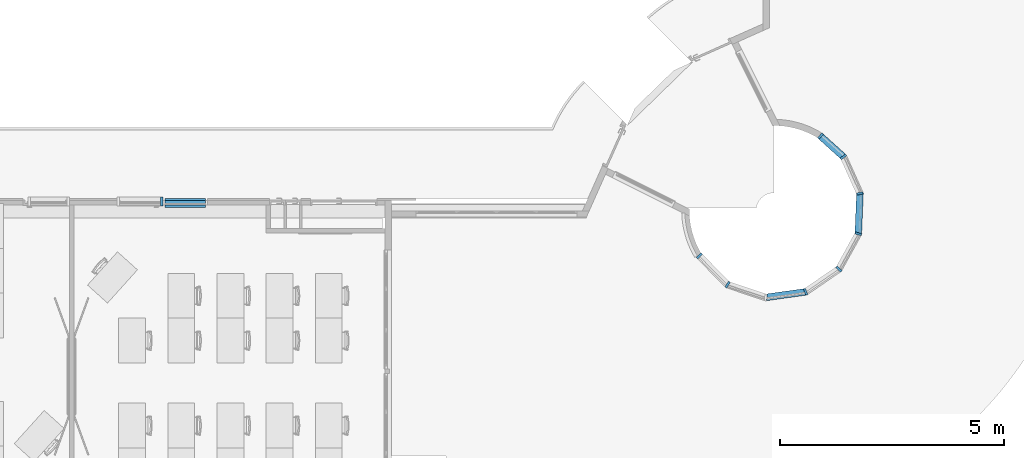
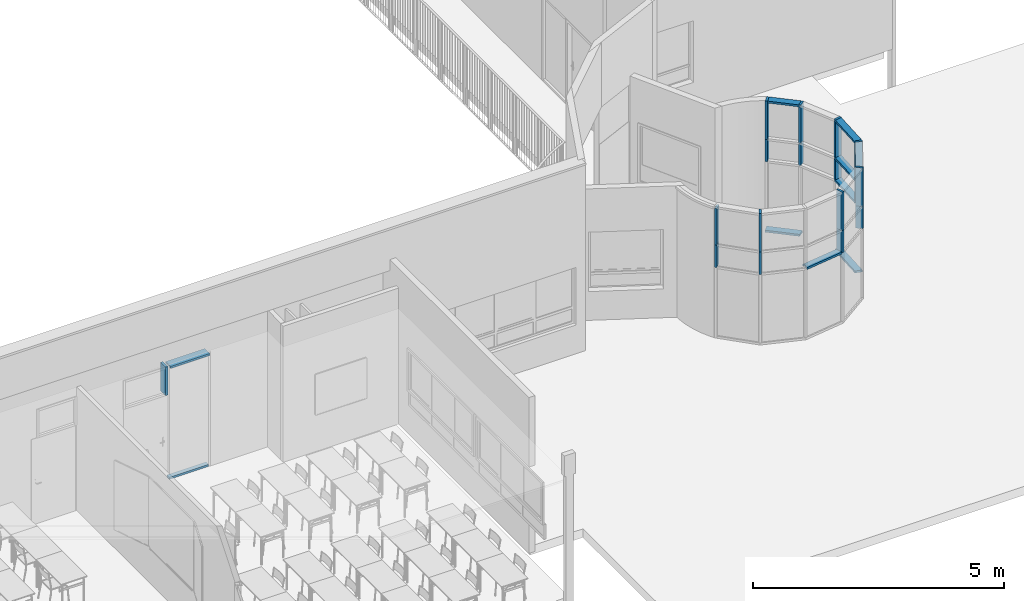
# One storey, part 13 of 44: 27 members, 4 elements without a shape of their own.
"""IFC2X3 building model written with IfcOpenShell, lengths in centimetres."""

import ifcopenshell
import ifcopenshell.guid

model = None  # the IFC model being written
_history = None  # IfcOwnerHistory: only IFC2X3 demands one
_inside = {}  # id of a spatial element -> (the spatial element, [elements in it])
_under = {}  # id of a project, library or spatial element -> (it, [spatial elements below it])
_declared = {}  # id of a project -> (the project, [libraries it declares])
_typed = {}  # id of a type object -> (the type object, [elements of that type])
_made_of = {}  # id of a material, layer set ... -> (it, [elements and type objects made of it])


def new_model(schema):
    """Start an empty IFC model of exactly this schema.

    Asked for "IFC4X3", IfcOpenShell would pick the latest addendum, in which some entities
    have other attributes; the version numbers below select the first issue.
    IFC2X3 requires an IfcOwnerHistory on every rooted entity: one is made here for all.
    """
    global model, _history
    if schema == "IFC4X3":
        model = ifcopenshell.file(schema_version=(4, 3, 0, 0))
    else:
        model = ifcopenshell.file(schema=schema)
    _inside.clear()
    _under.clear()
    _declared.clear()
    _typed.clear()
    _made_of.clear()
    _history = None
    if model.schema == "IFC2X3":
        org = make("IfcOrganization", Name="unknown")
        user = make(
            "IfcPersonAndOrganization",
            ThePerson=make("IfcPerson", FamilyName="unknown"),
            TheOrganization=org,
        )
        app = make(
            "IfcApplication",
            ApplicationDeveloper=org,
            Version="unknown",
            ApplicationFullName="unknown",
            ApplicationIdentifier="unknown",
        )
        _history = make(
            "IfcOwnerHistory",
            OwningUser=user,
            OwningApplication=app,
            ChangeAction="ADDED",
            CreationDate=0,
        )
    return model


def make(cls, **values):
    """One entity of the class cls with the attributes given. An attribute that is None is left unset."""
    return model.create_entity(
        cls, **{name: value for name, value in values.items() if value is not None}
    )


def entity(cls, *values):
    """Any entity or typed value of the class cls, its attributes in the order of the schema. None: left unset."""
    e = model.create_entity(cls)
    for i, value in enumerate(values):
        if value is not None:
            e[i] = value
    return e


def rooted(cls, **values):
    """An entity with a GlobalId (a new one), such as an element, a storey or a relation."""
    return make(cls, GlobalId=ifcopenshell.guid.new(), OwnerHistory=_history, **values)


def si_unit(unit_type, name, prefix=None):
    """IfcSIUnit, for example si_unit("LENGTHUNIT", "METRE", prefix="MILLI")."""
    return make("IfcSIUnit", UnitType=unit_type, Prefix=prefix, Name=name)


def converted_unit(unit_type, name, factor, base, dimensions=None, offset=None):
    """IfcConversionBasedUnit, such as the inch: factor (a typed value) times the base unit."""
    return make(
        "IfcConversionBasedUnit"
        if offset is None
        else "IfcConversionBasedUnitWithOffset",
        ConversionOffset=offset,
        Dimensions=None
        if dimensions is None
        else entity("IfcDimensionalExponents", *dimensions),
        UnitType=unit_type,
        Name=name,
        ConversionFactor=make(
            "IfcMeasureWithUnit", ValueComponent=factor, UnitComponent=base
        ),
    )


def derived_unit(unit_type, elements):
    """IfcDerivedUnit: a product of units, each with its exponent."""
    return make(
        "IfcDerivedUnit",
        Elements=[
            make("IfcDerivedUnitElement", Unit=unit, Exponent=power)
            for unit, power in elements
        ],
        UnitType=unit_type,
    )


def assignment(units):
    """IfcUnitAssignment: the units of a project."""
    return None if units is None else make("IfcUnitAssignment", Units=units)


def point(xyz):
    """IfcCartesianPoint."""
    return None if xyz is None else make("IfcCartesianPoint", Coordinates=xyz)


def direction(xyz):
    """IfcDirection."""
    return None if xyz is None else make("IfcDirection", DirectionRatios=xyz)


def frame(location, z_axis=None, x_axis=None):
    """IfcAxis2Placement3D, a coordinate frame: its origin and axes. An axis left out is left unset."""
    return make(
        "IfcAxis2Placement3D",
        Location=point(location),
        Axis=direction(z_axis),
        RefDirection=direction(x_axis),
    )


def frame_2d(location, x_axis=None):
    """IfcAxis2Placement2D, a coordinate frame in the plane: its origin and x axis."""
    return make(
        "IfcAxis2Placement2D", Location=point(location), RefDirection=direction(x_axis)
    )


def origin():
    """The frame at (0, 0, 0) with its axes left unset."""
    return frame((0.0, 0.0, 0.0))


def origin_2d_with_axis():
    """The frame at (0, 0) in the plane with the x axis (1, 0) written out."""
    return frame_2d((0.0, 0.0), x_axis=(1.0, 0.0))


def place(relative_to, where):
    """IfcLocalPlacement: puts the frame where relative to a parent placement (None: the world)."""
    return make(
        "IfcLocalPlacement", PlacementRelTo=relative_to, RelativePlacement=where
    )


def context(
    kind, dimensions, precision=None, world=None, true_north=None, identifier=None
):
    """IfcGeometricRepresentationContext, for example the 3D "Model" context."""
    return make(
        "IfcGeometricRepresentationContext",
        ContextIdentifier=identifier,
        ContextType=kind,
        CoordinateSpaceDimension=dimensions,
        Precision=precision,
        WorldCoordinateSystem=world,
        TrueNorth=true_north,
    )


def subcontext(parent, identifier, kind, view, scale=None):
    """IfcGeometricRepresentationSubContext, for example "Body" below "Model"."""
    return make(
        "IfcGeometricRepresentationSubContext",
        ContextIdentifier=identifier,
        ContextType=kind,
        ParentContext=parent,
        TargetScale=scale,
        TargetView=view,
    )


def project(units=None, contexts=None):
    """IfcProject with its units and contexts."""
    return rooted(
        "IfcProject",
        Name="project",
        RepresentationContexts=contexts,
        UnitsInContext=assignment(units),
    )


def spatial(cls, under=None, at=None, **own):
    """A site, building, storey or space (cls), placed at a placement, below another one or the project."""
    s = rooted(cls, ObjectPlacement=at, **own)
    if under is not None:
        _under.setdefault(under.id(), (under, []))[1].append(s)
    return s


def polyline(points):
    """IfcPolyline through the points."""
    return make("IfcPolyline", Points=[point(p) for p in points])


def profile(cls, at=None, kind="AREA", **sizes):
    """A parametric profile (cls). Its sizes go by their IFC names, for example OverallWidth=200.0."""
    return make(cls, ProfileType=kind, Position=at, **sizes)


def rectangle(**sizes):
    """IfcRectangleProfileDef."""
    return profile("IfcRectangleProfileDef", **sizes)


def extrude(swept, where, along, depth):
    """IfcExtrudedAreaSolid: the profile swept, set in the frame where, extruded along a direction by depth."""
    return make(
        "IfcExtrudedAreaSolid",
        SweptArea=swept,
        Position=where,
        ExtrudedDirection=direction(along),
        Depth=depth,
    )


def clip(a, b, op="DIFFERENCE"):
    """IfcBooleanClippingResult: the solid a cut by the half space b."""
    return make(
        "IfcBooleanClippingResult", Operator=op, FirstOperand=a, SecondOperand=b
    )


def halfspace(plane, agree):
    """IfcHalfSpaceSolid: all space on one side of the plane z = 0 of the frame plane."""
    return make(
        "IfcHalfSpaceSolid",
        BaseSurface=make("IfcPlane", Position=plane),
        AgreementFlag=agree,
    )


def bounded_halfspace(plane, agree, where, boundary):
    """IfcPolygonalBoundedHalfSpace: a half space limited to a polygon's prism."""
    return make(
        "IfcPolygonalBoundedHalfSpace",
        BaseSurface=make("IfcPlane", Position=plane),
        AgreementFlag=agree,
        Position=where,
        PolygonalBoundary=boundary,
    )


def shape(context_of_items, identifier, shape_type, items):
    """IfcShapeRepresentation: the items that make up one representation, for example the "Body"."""
    return make(
        "IfcShapeRepresentation",
        ContextOfItems=context_of_items,
        RepresentationIdentifier=identifier,
        RepresentationType=shape_type,
        Items=items,
    )


def material(Name=None, Category=None):
    """IfcMaterial."""
    return make("IfcMaterial", Name=Name, Category=Category)


def made_of(thing, what):
    """Note that an element or type object is made of a material, layer set ...; save() writes the relation."""
    if what is not None:
        _made_of.setdefault(what.id(), (what, []))[1].append(thing)
    return thing


def type_object(cls, material=None, **own):
    """A type object (cls), such as IfcWallType, which elements share."""
    return made_of(rooted(cls, **own), material)


def element(
    cls,
    number,
    at=None,
    inside=None,
    cuts=None,
    type_object=None,
    material=None,
    context=None,
    identifier="Body",
    shape_type=None,
    held_by="IfcProductDefinitionShape",
    body=None,
    shapes=None,
    **own,
):
    """One element of the class cls, such as IfcWall. Its Tag is "e" and its number.

    at: its placement. inside: the storey or other place that contains it. cuts: it is an
    opening in that element (IfcRelVoidsElement). A single representation is given by context,
    identifier, shape_type and body (its items); several are given by shapes. held_by: the class
    of the entity that holds the representations. save() writes the other relations.
    """
    e = rooted(cls, Tag="e%d" % number, ObjectPlacement=at, **own)
    if body is not None:
        shapes = [shape(context, identifier, shape_type, body)]
    if shapes is not None:
        e.Representation = make(held_by, Representations=shapes)
    if inside is not None:
        _inside.setdefault(inside.id(), (inside, []))[1].append(e)
    if cuts is not None:
        rooted(
            "IfcRelVoidsElement", RelatingBuildingElement=cuts, RelatedOpeningElement=e
        )
    if type_object is not None:
        _typed.setdefault(type_object.id(), (type_object, []))[1].append(e)
    return made_of(e, material)


def aggregate(whole, parts):
    """IfcRelAggregates: a whole, such as a stair, and the parts it consists of."""
    return rooted("IfcRelAggregates", RelatingObject=whole, RelatedObjects=parts)


def save(model, path):
    """Write the relations noted so far, then the file.

    IfcRelAggregates (storeys below a building ...), IfcRelContainedInSpatialStructure (elements
    in a storey), IfcRelDefinesByType, IfcRelAssociatesMaterial and IfcRelDeclares: one each for
    every whole, place, type object, material and project.
    """
    for whole, parts in _under.values():
        aggregate(whole, parts)
    for where, things in _inside.values():
        rooted(
            "IfcRelContainedInSpatialStructure",
            RelatedElements=things,
            RelatingStructure=where,
        )
    for kind, things in _typed.values():
        rooted("IfcRelDefinesByType", RelatedObjects=things, RelatingType=kind)
    for what, things in _made_of.values():
        rooted("IfcRelAssociatesMaterial", RelatedObjects=things, RelatingMaterial=what)
    for by, libraries in _declared.values():
        rooted("IfcRelDeclares", RelatingContext=by, RelatedDefinitions=libraries)
    model.write(path)


model = new_model("IFC2X3")

# Units and contexts
model_context = context("Model", 3, precision=0.001, world=origin(), true_north=direction((6.12303176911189e-17, 1.0)))
body_context = subcontext(model_context, "Body", "Model", "MODEL_VIEW")
ifc_project = project(units=[si_unit("LENGTHUNIT", "METRE", prefix="CENTI"), si_unit("AREAUNIT", "SQUARE_METRE"), si_unit("VOLUMEUNIT", "CUBIC_METRE"), converted_unit("PLANEANGLEUNIT", "DEGREE", entity("IfcRatioMeasure", 0.0174532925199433), si_unit("PLANEANGLEUNIT", "RADIAN"), dimensions=[0, 0, 0, 0, 0, 0, 0]), si_unit("MASSUNIT", "GRAM", prefix="KILO"), si_unit("TIMEUNIT", "SECOND"), si_unit("FREQUENCYUNIT", "HERTZ"), si_unit("THERMODYNAMICTEMPERATUREUNIT", "DEGREE_CELSIUS"), derived_unit("THERMALTRANSMITTANCEUNIT", [(si_unit("MASSUNIT", "GRAM", prefix="KILO"), 1), (si_unit("THERMODYNAMICTEMPERATUREUNIT", "KELVIN"), -1), (si_unit("TIMEUNIT", "SECOND"), -3)]), derived_unit("VOLUMETRICFLOWRATEUNIT", [(si_unit("LENGTHUNIT", "METRE"), 3), (si_unit("TIMEUNIT", "SECOND"), -1)]), si_unit("ELECTRICCURRENTUNIT", "AMPERE"), si_unit("ELECTRICVOLTAGEUNIT", "VOLT"), si_unit("POWERUNIT", "WATT"), si_unit("FORCEUNIT", "NEWTON", prefix="KILO"), si_unit("ILLUMINANCEUNIT", "LUX"), si_unit("LUMINOUSFLUXUNIT", "LUMEN"), si_unit("LUMINOUSINTENSITYUNIT", "CANDELA"), derived_unit("USERDEFINED", [(si_unit("MASSUNIT", "GRAM", prefix="KILO"), -1), (si_unit("LENGTHUNIT", "METRE"), -2), (si_unit("TIMEUNIT", "SECOND"), 3), (si_unit("LUMINOUSFLUXUNIT", "LUMEN"), 1)]), derived_unit("LINEARVELOCITYUNIT", [(si_unit("LENGTHUNIT", "METRE"), 1), (si_unit("TIMEUNIT", "SECOND"), -1)]), si_unit("PRESSUREUNIT", "PASCAL"), derived_unit("USERDEFINED", [(si_unit("LENGTHUNIT", "METRE"), -2), (si_unit("MASSUNIT", "GRAM", prefix="KILO"), 1), (si_unit("TIMEUNIT", "SECOND"), -2)])], contexts=[model_context])

# Site, building, storey
site_placement = place(None, frame((8.62739174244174, -249.285249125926, 0.0)))
site = spatial("IfcSite", under=ifc_project, at=site_placement, Name="Default", CompositionType="ELEMENT")
building_placement = place(site_placement, origin())
building = spatial("IfcBuilding", under=site, at=building_placement, CompositionType="ELEMENT")
storey_placement = place(building_placement, frame((0.0, 0.0, 343.0)))
storey = spatial("IfcBuildingStorey", under=building, at=storey_placement, Name="R+1", CompositionType="ELEMENT", Elevation=343.0)

# Curtain wall, members
curtain_wall_type_1 = type_object("IfcCurtainWallType", Name="Mur-rideau:1 m x 1 m - Meneaux", PredefinedType="NOTDEFINED")
curtain_wall_1_placement = place(storey_placement, frame((0.0, 0.0, -343.0)))
curtain_wall_1 = element("IfcCurtainWall", 1, at=curtain_wall_1_placement, inside=storey, type_object=curtain_wall_type_1, Name="Mur-rideau:1 m x 1 m - Meneaux", ObjectType="Mur-rideau:1 m x 1 m - Meneaux")
ifc_material = material(Name="Plastique, blanc opaque")
member_1_placement = place(curtain_wall_1_placement, frame((0.0, 0.0, 343.0)))
member_1 = element("IfcMember", 2, at=member_1_placement, material=ifc_material, Name="Mur-rideau:1 m x 1 m - Meneaux:661", ObjectType="Mur-rideau:1 m x 1 m - Meneaux:661", context=body_context, shape_type="Clipping", body=[
    clip(clip(extrude(rectangle(XDim=4.99999999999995, YDim=14.9999999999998, at=frame_2d((0.0, -4.04121180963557e-14), x_axis=(1.0, 0.0))), frame((3149.88515648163, 917.379609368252, 317.5), z_axis=(0.742869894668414, -0.669435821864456, 0.0), x_axis=(0.0, 0.0, -1.0)), (0.0, 0.0, 1.0), 65.8973889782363), bounded_halfspace(frame((3191.87727141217, 870.226880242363, 226.0), z_axis=(0.608123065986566, -0.793842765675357, 0.0), x_axis=(0.793842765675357, 0.608123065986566, 0.0)), False, frame((3149.88515648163, 917.379609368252, 317.5), z_axis=(0.742869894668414, -0.669435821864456, 0.0), x_axis=(0.0, 0.0, -1.0)), polyline([(-2.49999999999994, 7.50000000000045), (-2.49999999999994, -6.91731694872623), (2.5, -6.91731694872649), (2.5, 7.4999999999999), (-2.49999999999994, 7.50000000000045)]))), bounded_halfspace(frame((3194.9178867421, 866.257666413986, 226.0), z_axis=(0.793842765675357, 0.608123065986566, 0.0), x_axis=(0.608123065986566, -0.793842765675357, 0.0)), False, frame((3149.88515648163, 917.379609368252, 317.5), z_axis=(0.742869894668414, -0.669435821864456, 0.0), x_axis=(0.0, 0.0, -1.0)), polyline([(-2.49999999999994, -6.9173169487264), (-2.49999999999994, -7.49999999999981), (2.5, -7.4999999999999), (2.5, -6.91731694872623), (-2.49999999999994, -6.9173169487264)]))),
])
member_2_placement = place(curtain_wall_1_placement, frame((0.0, 0.0, 343.0)))
member_2 = element("IfcMember", 3, at=member_2_placement, material=ifc_material, Name="Mur-rideau:1 m x 1 m - Meneaux:661", ObjectType="Mur-rideau:1 m x 1 m - Meneaux:661", context=body_context, shape_type="SweptSolid", body=[
    extrude(rectangle(XDim=15.0, YDim=4.99999999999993, at=frame_2d((-1.92290627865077e-13, -1.13020703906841e-13), x_axis=(1.0, 0.0))), frame((2877.29528314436, 651.233873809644, 315.0), z_axis=(0.0, 0.0, -1.0), x_axis=(0.712900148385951, 0.701265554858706, 0.0)), (0.0, 0.0, 1.0), 89.0),
])
member_3_placement = place(curtain_wall_1_placement, frame((0.0, 0.0, 343.0)))
member_3 = element("IfcMember", 4, at=member_3_placement, material=ifc_material, Name="Mur-rideau:1 m x 1 m - Meneaux:661", ObjectType="Mur-rideau:1 m x 1 m - Meneaux:661", context=body_context, shape_type="Clipping", body=[
    clip(clip(clip(clip(extrude(rectangle(XDim=4.99999999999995, YDim=15.0000000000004, at=origin_2d_with_axis()), frame((3236.18406979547, 789.901336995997, 317.5), z_axis=(-0.0412690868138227, -0.999148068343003, 0.0), x_axis=(0.0, 0.0, -1.0)), (0.0, 0.0, 1.0), 88.4011679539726), bounded_halfspace(frame((3244.0546314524, 789.664461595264, 226.0), z_axis=(-0.189229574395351, 0.981932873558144, 0.0), x_axis=(0.981932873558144, 0.189229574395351, 0.0)), False, frame((3236.18406979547, 789.901336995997, 317.5), z_axis=(-0.0412690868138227, -0.999148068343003, 0.0), x_axis=(0.0, 0.0, -1.0)), polyline([(-2.49999999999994, 7.50000000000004), (2.5, 7.50000000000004), (2.5, -6.72567292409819), (-2.49999999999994, -6.72567292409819), (-2.49999999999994, 7.50000000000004)]))), bounded_halfspace(frame((3229.32563834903, 786.826017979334, 226.0), z_axis=(0.981932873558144, 0.189229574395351, 0.0), x_axis=(0.189229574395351, -0.981932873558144, 0.0)), False, frame((3236.18406979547, 789.901336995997, 317.5), z_axis=(-0.0412690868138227, -0.999148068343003, 0.0), x_axis=(0.0, 0.0, -1.0)), polyline([(2.5, -6.72567292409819), (2.5, -7.5000000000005), (-2.49999999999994, -7.5000000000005), (-2.49999999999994, -6.72567292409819), (2.5, -6.72567292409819)]))), bounded_halfspace(frame((3225.95437954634, 705.205924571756, 226.0), z_axis=(-0.269562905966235, -0.962982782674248, 0.0), x_axis=(0.962982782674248, -0.269562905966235, 0.0)), False, frame((3236.18406979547, 789.901336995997, 317.5), z_axis=(-0.0412690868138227, -0.999148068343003, 0.0), x_axis=(0.0, 0.0, -1.0)), polyline([(-2.49999999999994, 7.49999999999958), (-2.49999999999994, -6.72567292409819), (2.5, -6.72567292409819), (2.5, 7.50000000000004), (-2.49999999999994, 7.49999999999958)]))), bounded_halfspace(frame((3224.60656501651, 700.391010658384, 226.0), z_axis=(0.962982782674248, -0.269562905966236, 0.0), x_axis=(0.269562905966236, 0.962982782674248, 0.0)), False, frame((3236.18406979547, 789.901336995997, 317.5), z_axis=(-0.0412690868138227, -0.999148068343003, 0.0), x_axis=(0.0, 0.0, -1.0)), polyline([(-2.49999999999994, -6.72567292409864), (-2.49999999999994, -7.5000000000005), (2.5, -7.50000000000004), (2.5, -6.72567292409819), (-2.49999999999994, -6.72567292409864)]))),
])
member_4_placement = place(curtain_wall_1_placement, frame((0.0, 0.0, 343.0)))
member_4 = element("IfcMember", 5, at=member_4_placement, material=ifc_material, Name="Mur-rideau:1 m x 1 m - Meneaux:661", ObjectType="Mur-rideau:1 m x 1 m - Meneaux:661", context=body_context, shape_type="Clipping", body=[
    clip(clip(extrude(rectangle(XDim=5.0, YDim=15.0000000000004, at=frame_2d((-2.70894418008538e-14, 0.0), x_axis=(1.0, 0.0))), frame((3232.42982990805, 699.009053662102, 2.49999999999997), z_axis=(0.0412690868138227, 0.999148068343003, 0.0), x_axis=(0.0, 0.0, -1.0)), (0.0, 0.0, 1.0), 93.5383987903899), halfspace(frame((3232.50284315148, 700.776745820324, -30.48), z_axis=(-0.269562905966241, -0.962982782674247, 0.0), x_axis=(0.962982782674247, -0.269562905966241, 0.0)), False)), halfspace(frame((3236.21706096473, 790.700071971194, -30.48), z_axis=(-0.189229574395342, 0.981932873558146, 0.0), x_axis=(0.981932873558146, 0.189229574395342, 0.0)), False)),
])
member_5_placement = place(curtain_wall_1_placement, frame((0.0, 0.0, 343.0)))
member_5 = element("IfcMember", 6, at=member_5_placement, material=ifc_material, Name="Mur-rideau:1 m x 1 m - Meneaux:661", ObjectType="Mur-rideau:1 m x 1 m - Meneaux:661", context=body_context, shape_type="Clipping", body=[
    clip(extrude(rectangle(XDim=5.0, YDim=14.9999999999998, at=frame_2d((-2.70894418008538e-14, -1.20348175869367e-13), x_axis=(1.0, 0.0))), frame((3200.52528042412, 871.745356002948, 2.49999999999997), z_axis=(-0.742869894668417, 0.669435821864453, 0.0), x_axis=(0.0, 0.0, -1.0)), (0.0, 0.0, 1.0), 73.168227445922), halfspace(frame((3199.3513998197, 872.803196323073, -30.48), z_axis=(0.588895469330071, -0.808209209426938, 0.0), x_axis=(0.808209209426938, 0.588895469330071, 0.0)), False)),
])
member_6_placement = place(curtain_wall_1_placement, frame((0.0, 0.0, 343.0)))
member_6 = element("IfcMember", 7, at=member_6_placement, material=ifc_material, Name="Mur-rideau:1 m x 1 m - Meneaux:661", ObjectType="Mur-rideau:1 m x 1 m - Meneaux:661", context=body_context, shape_type="SweptSolid", body=[
    extrude(rectangle(XDim=14.9999999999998, YDim=4.99999999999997, at=frame_2d((4.04121180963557e-14, 3.64153152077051e-14), x_axis=(1.0, 0.0))), frame((3148.02798174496, 919.053198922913, 226.0), z_axis=(0.0, 0.0, 1.0), x_axis=(0.669435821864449, 0.74286989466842, 0.0)), (0.0, 0.0, 1.0), 93.9999999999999),
])
member_7_placement = place(curtain_wall_1_placement, frame((0.0, 0.0, 343.0)))
member_7 = element("IfcMember", 8, at=member_7_placement, material=ifc_material, Name="Mur-rideau:1 m x 1 m - Meneaux:661", ObjectType="Mur-rideau:1 m x 1 m - Meneaux:661", context=body_context, shape_type="SweptSolid", body=[
    extrude(rectangle(XDim=15.0, YDim=4.99999999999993, at=frame_2d((-1.92290627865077e-13, -1.13020703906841e-13), x_axis=(1.0, 0.0))), frame((2877.29528314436, 651.233873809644, 226.0), z_axis=(0.0, 0.0, -1.0), x_axis=(0.712900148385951, 0.701265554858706, 0.0)), (0.0, 0.0, 1.0), 54.0),
])
member_8_placement = place(curtain_wall_1_placement, frame((0.0, 0.0, 343.0)))
member_8 = element("IfcMember", 9, at=member_8_placement, material=ifc_material, Name="Mur-rideau:1 m x 1 m - Meneaux:661", ObjectType="Mur-rideau:1 m x 1 m - Meneaux:661", context=body_context, shape_type="Clipping", body=[
    clip(clip(clip(clip(clip(clip(clip(clip(extrude(rectangle(XDim=4.99999999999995, YDim=15.0000000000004, at=frame_2d((0.0, 4.32986979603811e-13), x_axis=(1.0, 0.0))), frame((3236.18406979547, 789.901336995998, 226.0), z_axis=(-0.0412690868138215, -0.999148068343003, 0.0), x_axis=(0.0, 0.0, -1.0)), (0.0, 0.0, 1.0), 88.4011679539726), bounded_halfspace(frame((3244.0546314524, 789.664461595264, 226.0), z_axis=(-0.18922957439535, 0.981932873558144, 0.0), x_axis=(0.981932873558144, 0.18922957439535, 0.0)), False, frame((3236.18406979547, 789.901336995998, 226.0), z_axis=(-0.0412690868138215, -0.999148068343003, 0.0), x_axis=(0.0, 0.0, -1.0)), polyline([(-2.49999999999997, 7.5000000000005), (0.0, 7.5000000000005), (0.0, -6.72567292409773), (-2.49999999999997, -6.72567292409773), (-2.49999999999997, 7.5000000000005)]))), bounded_halfspace(frame((3244.0546314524, 789.664461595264, 172.0), z_axis=(-0.18922957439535, 0.981932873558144, 0.0), x_axis=(0.981932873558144, 0.18922957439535, 0.0)), False, frame((3236.18406979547, 789.901336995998, 226.0), z_axis=(-0.0412690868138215, -0.999148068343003, 0.0), x_axis=(0.0, 0.0, -1.0)), polyline([(0.0, 7.5000000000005), (2.49999999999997, 7.5000000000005), (2.49999999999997, -6.72567292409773), (0.0, -6.72567292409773), (0.0, 7.5000000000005)]))), bounded_halfspace(frame((3229.32563834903, 786.826017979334, 226.0), z_axis=(0.981932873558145, 0.18922957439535, 0.0), x_axis=(0.18922957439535, -0.981932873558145, 0.0)), False, frame((3236.18406979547, 789.901336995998, 226.0), z_axis=(-0.0412690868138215, -0.999148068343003, 0.0), x_axis=(0.0, 0.0, -1.0)), polyline([(0.0, -7.50000000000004), (-2.49999999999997, -7.50000000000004), (-2.49999999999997, -6.72567292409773), (0.0, -6.72567292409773), (0.0, -7.50000000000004)]))), bounded_halfspace(frame((3229.32563834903, 786.826017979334, 172.0), z_axis=(0.981932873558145, 0.18922957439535, 0.0), x_axis=(0.18922957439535, -0.981932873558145, 0.0)), False, frame((3236.18406979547, 789.901336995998, 226.0), z_axis=(-0.0412690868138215, -0.999148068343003, 0.0), x_axis=(0.0, 0.0, -1.0)), polyline([(2.49999999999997, -6.72567292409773), (2.49999999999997, -7.50000000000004), (0.0, -7.50000000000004), (0.0, -6.72567292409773), (2.49999999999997, -6.72567292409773)]))), bounded_halfspace(frame((3225.95437954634, 705.205924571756, 226.0), z_axis=(-0.269562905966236, -0.962982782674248, 0.0), x_axis=(0.962982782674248, -0.269562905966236, 0.0)), False, frame((3236.18406979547, 789.901336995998, 226.0), z_axis=(-0.0412690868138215, -0.999148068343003, 0.0), x_axis=(0.0, 0.0, -1.0)), polyline([(-2.49999999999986, 7.50000000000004), (-2.49999999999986, -6.72567292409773), (0.0, -6.72567292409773), (0.0, 7.5000000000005), (-2.49999999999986, 7.50000000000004)]))), bounded_halfspace(frame((3224.60656501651, 700.391010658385, 226.0), z_axis=(0.962982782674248, -0.269562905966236, 0.0), x_axis=(0.269562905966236, 0.962982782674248, 0.0)), False, frame((3236.18406979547, 789.901336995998, 226.0), z_axis=(-0.0412690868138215, -0.999148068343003, 0.0), x_axis=(0.0, 0.0, -1.0)), polyline([(-2.49999999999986, -6.72567292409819), (-2.49999999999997, -7.50000000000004), (0.0, -7.50000000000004), (0.0, -6.72567292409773), (-2.49999999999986, -6.72567292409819)]))), bounded_halfspace(frame((3225.95437954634, 705.205924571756, 172.0), z_axis=(-0.269562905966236, -0.962982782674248, 0.0), x_axis=(0.962982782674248, -0.269562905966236, 0.0)), False, frame((3236.18406979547, 789.901336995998, 226.0), z_axis=(-0.0412690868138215, -0.999148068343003, 0.0), x_axis=(0.0, 0.0, -1.0)), polyline([(2.50000000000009, -6.72567292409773), (2.50000000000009, 7.5000000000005), (0.0, 7.50000000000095), (0.0, -6.72567292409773), (2.50000000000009, -6.72567292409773)]))), bounded_halfspace(frame((3224.60656501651, 700.391010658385, 172.0), z_axis=(0.962982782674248, -0.269562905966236, 0.0), x_axis=(0.269562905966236, 0.962982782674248, 0.0)), False, frame((3236.18406979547, 789.901336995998, 226.0), z_axis=(-0.0412690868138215, -0.999148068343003, 0.0), x_axis=(0.0, 0.0, -1.0)), polyline([(0.0, -7.50000000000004), (2.50000000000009, -7.49999999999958), (2.50000000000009, -6.72567292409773), (0.0, -6.72567292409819), (0.0, -7.50000000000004)]))),
])
member_9_placement = place(curtain_wall_1_placement, frame((0.0, 0.0, 343.0)))
member_9 = element("IfcMember", 10, at=member_9_placement, material=ifc_material, Name="Mur-rideau:1 m x 1 m - Meneaux:661", ObjectType="Mur-rideau:1 m x 1 m - Meneaux:661", context=body_context, shape_type="SweptSolid", body=[
    extrude(rectangle(XDim=4.99999999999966, YDim=15.0, at=frame_2d((-3.67927910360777e-13, -2.28261853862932e-13), x_axis=(1.0, 0.0))), frame((2940.40918308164, 587.072860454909, 226.0), z_axis=(0.0, 0.0, 1.0), x_axis=(0.849684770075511, -0.527290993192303, 0.0)), (0.0, 0.0, 1.0), 93.9999999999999),
])
member_10_placement = place(curtain_wall_1_placement, frame((0.0, 0.0, 343.0)))
member_10 = element("IfcMember", 11, at=member_10_placement, material=ifc_material, Name="Mur-rideau:1 m x 1 m - Meneaux:661", ObjectType="Mur-rideau:1 m x 1 m - Meneaux:661", context=body_context, shape_type="SweptSolid", body=[
    extrude(rectangle(XDim=5.00000000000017, YDim=15.0, at=frame_2d((4.03677091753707e-13, -1.57207580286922e-13), x_axis=(1.0, 0.0))), frame((3114.8584646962, 570.961807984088, 226.0), z_axis=(0.0, 0.0, 1.0), x_axis=(0.931884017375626, 0.362756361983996, 0.0)), (0.0, 0.0, 1.0), 94.0),
])
member_11_placement = place(curtain_wall_1_placement, frame((0.0, 0.0, 343.0)))
member_11 = element("IfcMember", 12, at=member_11_placement, material=ifc_material, Name="Mur-rideau:1 m x 1 m - Meneaux:661", ObjectType="Mur-rideau:1 m x 1 m - Meneaux:661", context=body_context, shape_type="SweptSolid", body=[
    extrude(rectangle(XDim=4.99999999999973, YDim=14.9999999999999, at=origin_2d_with_axis()), frame((3188.99188789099, 621.993519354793, 226.0), z_axis=(0.0, 0.0, 1.0), x_axis=(0.671518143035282, 0.740988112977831, 0.0)), (0.0, 0.0, 1.0), 94.0),
])
member_12_placement = place(curtain_wall_1_placement, frame((0.0, 0.0, 343.0)))
member_12 = element("IfcMember", 13, at=member_12_placement, material=ifc_material, Name="Mur-rideau:1 m x 1 m - Meneaux:661", ObjectType="Mur-rideau:1 m x 1 m - Meneaux:661", context=body_context, shape_type="SweptSolid", body=[
    extrude(rectangle(XDim=5.00000000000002, YDim=15.0, at=origin_2d_with_axis()), frame((3232.50284315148, 700.776745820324, 226.0), z_axis=(0.0, 0.0, 1.0), x_axis=(0.269562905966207, 0.962982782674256, 0.0)), (0.0, 0.0, 1.0), 93.9999999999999),
])
member_13_placement = place(curtain_wall_1_placement, frame((0.0, 0.0, 343.0)))
member_13 = element("IfcMember", 14, at=member_13_placement, material=ifc_material, Name="Mur-rideau:1 m x 1 m - Meneaux:661", ObjectType="Mur-rideau:1 m x 1 m - Meneaux:661", context=body_context, shape_type="SweptSolid", body=[
    extrude(rectangle(XDim=4.99999999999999, YDim=14.9999999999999, at=origin_2d_with_axis()), frame((3236.21706096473, 790.700071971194, 226.0), z_axis=(0.0, 0.0, 1.0), x_axis=(-0.189229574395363, 0.981932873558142, 0.0)), (0.0, 0.0, 1.0), 94.0),
])
member_14_placement = place(curtain_wall_1_placement, frame((0.0, 0.0, 343.0)))
member_14 = element("IfcMember", 15, at=member_14_placement, material=ifc_material, Name="Mur-rideau:1 m x 1 m - Meneaux:661", ObjectType="Mur-rideau:1 m x 1 m - Meneaux:661", context=body_context, shape_type="SweptSolid", body=[
    extrude(rectangle(XDim=14.9999999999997, YDim=5.00000000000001, at=origin_2d_with_axis()), frame((3199.3513998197, 872.803196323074, 226.0), z_axis=(0.0, 0.0, 1.0), x_axis=(0.793842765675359, 0.608123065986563, 0.0)), (0.0, 0.0, 1.0), 94.0),
])
member_15_placement = place(curtain_wall_1_placement, frame((0.0, 0.0, 343.0)))
member_15 = element("IfcMember", 16, at=member_15_placement, material=ifc_material, Name="Mur-rideau:1 m x 1 m - Meneaux:661", ObjectType="Mur-rideau:1 m x 1 m - Meneaux:661", context=body_context, shape_type="SweptSolid", body=[
    extrude(rectangle(XDim=14.9999999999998, YDim=4.99999999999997, at=frame_2d((4.04121180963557e-14, 3.64153152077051e-14), x_axis=(1.0, 0.0))), frame((3148.02798174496, 919.053198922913, 172.0), z_axis=(0.0, 0.0, 1.0), x_axis=(0.669435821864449, 0.74286989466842, 0.0)), (0.0, 0.0, 1.0), 53.9999999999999),
])
member_16_placement = place(curtain_wall_1_placement, frame((0.0, 0.0, 343.0)))
member_16 = element("IfcMember", 17, at=member_16_placement, material=ifc_material, Name="Mur-rideau:1 m x 1 m - Meneaux:661", ObjectType="Mur-rideau:1 m x 1 m - Meneaux:661", context=body_context, shape_type="Clipping", body=[
    clip(clip(clip(clip(clip(clip(clip(clip(extrude(rectangle(XDim=4.99999999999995, YDim=15.0000000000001, at=frame_2d((0.0, 2.97539770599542e-14), x_axis=(1.0, 0.0))), frame((3114.06682179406, 570.850598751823, 172.0), z_axis=(-0.990276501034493, -0.139113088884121, 0.0), x_axis=(0.0, 0.0, -1.0)), (0.0, 0.0, 1.0), 88.401167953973), bounded_halfspace(frame((3115.24942736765, 563.065786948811, 172.0), z_axis=(0.931884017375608, 0.362756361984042, 0.0), x_axis=(0.362756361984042, -0.931884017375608, 0.0)), False, frame((3114.06682179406, 570.850598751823, 172.0), z_axis=(-0.990276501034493, -0.139113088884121, 0.0), x_axis=(0.0, 0.0, -1.0)), polyline([(-2.49999999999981, 7.50000000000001), (0.0, 7.50000000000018), (0.0, -6.72567292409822), (-2.50000000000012, -6.72567292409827), (-2.49999999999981, 7.50000000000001)]))), bounded_halfspace(frame((3115.24942736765, 563.065786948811, 5.0), z_axis=(0.931884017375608, 0.362756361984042, 0.0), x_axis=(0.362756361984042, -0.931884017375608, 0.0)), False, frame((3114.06682179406, 570.850598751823, 172.0), z_axis=(-0.990276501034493, -0.139113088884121, 0.0), x_axis=(0.0, 0.0, -1.0)), polyline([(0.0, 7.49999999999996), (2.50000000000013, 7.4999999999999), (2.49999999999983, -6.72567292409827), (0.0, -6.7256729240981), (0.0, 7.49999999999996)]))), bounded_halfspace(frame((3109.80808193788, 577.044047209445, 172.0), z_axis=(0.362756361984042, -0.931884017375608, 0.0), x_axis=(0.931884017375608, 0.362756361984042, 0.0)), False, frame((3114.06682179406, 570.850598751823, 172.0), z_axis=(-0.990276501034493, -0.139113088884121, 0.0), x_axis=(0.0, 0.0, -1.0)), polyline([(0.0, -7.50000000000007), (-2.50000000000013, -7.50000000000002), (-2.50000000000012, -6.72567292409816), (0.0, -6.72567292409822), (0.0, -7.50000000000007)]))), bounded_halfspace(frame((3109.80808193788, 577.044047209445, 5.0), z_axis=(0.362756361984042, -0.931884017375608, 0.0), x_axis=(0.931884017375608, 0.362756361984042, 0.0)), False, frame((3114.06682179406, 570.850598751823, 172.0), z_axis=(-0.990276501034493, -0.139113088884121, 0.0), x_axis=(0.0, 0.0, -1.0)), polyline([(2.49999999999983, -6.72567292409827), (2.49999999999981, -7.50000000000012), (0.0, -7.49999999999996), (0.0, -6.72567292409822), (2.49999999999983, -6.72567292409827)]))), bounded_halfspace(frame((3028.91270409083, 565.679942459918, 172.0), z_axis=(-0.995762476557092, 0.0919624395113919, 0.0), x_axis=(0.0919624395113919, 0.995762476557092, 0.0)), False, frame((3114.06682179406, 570.850598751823, 172.0), z_axis=(-0.990276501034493, -0.139113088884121, 0.0), x_axis=(0.0, 0.0, -1.0)), polyline([(-2.49999999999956, 7.49999999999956), (-2.49999999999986, -6.72567292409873), (0.0, -6.72567292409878), (0.0, 7.49999999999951), (-2.49999999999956, 7.49999999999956)]))), bounded_halfspace(frame((3023.93389170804, 566.139754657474, 172.0), z_axis=(-0.0919624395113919, -0.995762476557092, 0.0), x_axis=(0.995762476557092, -0.0919624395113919, 0.0)), False, frame((3114.06682179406, 570.850598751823, 172.0), z_axis=(-0.990276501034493, -0.139113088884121, 0.0), x_axis=(0.0, 0.0, -1.0)), polyline([(-2.49999999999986, -6.72567292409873), (-2.49999999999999, -7.50000000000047), (0.0, -7.50000000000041), (0.0, -6.72567292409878), (-2.49999999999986, -6.72567292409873)]))), bounded_halfspace(frame((3028.91270409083, 565.679942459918, 5.0), z_axis=(-0.995762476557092, 0.0919624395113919, 0.0), x_axis=(0.0919624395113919, 0.995762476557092, 0.0)), False, frame((3114.06682179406, 570.850598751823, 172.0), z_axis=(-0.990276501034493, -0.139113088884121, 0.0), x_axis=(0.0, 0.0, -1.0)), polyline([(2.50000000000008, -6.72567292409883), (2.5000000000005, 7.49999999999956), (0.0, 7.49999999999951), (0.0, -6.72567292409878), (2.50000000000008, -6.72567292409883)]))), bounded_halfspace(frame((3023.93389170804, 566.139754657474, 5.0), z_axis=(-0.0919624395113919, -0.995762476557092, 0.0), x_axis=(0.995762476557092, -0.0919624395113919, 0.0)), False, frame((3114.06682179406, 570.850598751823, 172.0), z_axis=(-0.990276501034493, -0.139113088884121, 0.0), x_axis=(0.0, 0.0, -1.0)), polyline([(0.0, -7.50000000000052), (2.50000000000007, -7.50000000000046), (2.50000000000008, -6.72567292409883), (0.0, -6.72567292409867), (0.0, -7.50000000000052)]))),
])
member_17_placement = place(curtain_wall_1_placement, frame((0.0, 0.0, 343.0)))
member_17 = element("IfcMember", 18, at=member_17_placement, material=ifc_material, Name="Mur-rideau:1 m x 1 m - Meneaux:661", ObjectType="Mur-rideau:1 m x 1 m - Meneaux:661", context=body_context, shape_type="Clipping", body=[
    clip(clip(clip(clip(clip(clip(clip(clip(extrude(rectangle(XDim=4.99999999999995, YDim=15.0000000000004, at=origin_2d_with_axis()), frame((3236.18406979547, 789.901336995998, 172.0), z_axis=(-0.0412690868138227, -0.999148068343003, 0.0), x_axis=(0.0, 0.0, -1.0)), (0.0, 0.0, 1.0), 88.4011679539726), bounded_halfspace(frame((3244.0546314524, 789.664461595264, 172.0), z_axis=(-0.18922957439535, 0.981932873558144, 0.0), x_axis=(0.981932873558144, 0.18922957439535, 0.0)), False, frame((3236.18406979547, 789.901336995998, 172.0), z_axis=(-0.0412690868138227, -0.999148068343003, 0.0), x_axis=(0.0, 0.0, -1.0)), polyline([(-2.49999999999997, 7.50000000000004), (0.0, 7.50000000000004), (0.0, -6.72567292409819), (-2.49999999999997, -6.72567292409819), (-2.49999999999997, 7.50000000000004)]))), bounded_halfspace(frame((3244.0546314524, 789.664461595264, 5.0), z_axis=(-0.18922957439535, 0.981932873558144, 0.0), x_axis=(0.981932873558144, 0.18922957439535, 0.0)), False, frame((3236.18406979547, 789.901336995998, 172.0), z_axis=(-0.0412690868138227, -0.999148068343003, 0.0), x_axis=(0.0, 0.0, -1.0)), polyline([(0.0, 7.50000000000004), (2.49999999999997, 7.50000000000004), (2.49999999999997, -6.72567292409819), (0.0, -6.72567292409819), (0.0, 7.50000000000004)]))), bounded_halfspace(frame((3229.32563834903, 786.826017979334, 172.0), z_axis=(0.981932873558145, 0.18922957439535, 0.0), x_axis=(0.18922957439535, -0.981932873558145, 0.0)), False, frame((3236.18406979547, 789.901336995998, 172.0), z_axis=(-0.0412690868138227, -0.999148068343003, 0.0), x_axis=(0.0, 0.0, -1.0)), polyline([(0.0, -7.5000000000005), (-2.49999999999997, -7.5000000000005), (-2.49999999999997, -6.72567292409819), (0.0, -6.72567292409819), (0.0, -7.5000000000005)]))), bounded_halfspace(frame((3229.32563834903, 786.826017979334, 5.0), z_axis=(0.981932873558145, 0.18922957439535, 0.0), x_axis=(0.18922957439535, -0.981932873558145, 0.0)), False, frame((3236.18406979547, 789.901336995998, 172.0), z_axis=(-0.0412690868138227, -0.999148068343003, 0.0), x_axis=(0.0, 0.0, -1.0)), polyline([(2.49999999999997, -6.72567292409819), (2.49999999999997, -7.5000000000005), (0.0, -7.5000000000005), (0.0, -6.72567292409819), (2.49999999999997, -6.72567292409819)]))), bounded_halfspace(frame((3225.95437954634, 705.205924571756, 172.0), z_axis=(-0.269562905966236, -0.962982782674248, 0.0), x_axis=(0.962982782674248, -0.269562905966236, 0.0)), False, frame((3236.18406979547, 789.901336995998, 172.0), z_axis=(-0.0412690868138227, -0.999148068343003, 0.0), x_axis=(0.0, 0.0, -1.0)), polyline([(-2.49999999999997, 7.49999999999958), (-2.49999999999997, -6.72567292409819), (0.0, -6.72567292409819), (0.0, 7.50000000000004), (-2.49999999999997, 7.49999999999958)]))), bounded_halfspace(frame((3224.60656501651, 700.391010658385, 172.0), z_axis=(0.962982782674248, -0.269562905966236, 0.0), x_axis=(0.269562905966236, 0.962982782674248, 0.0)), False, frame((3236.18406979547, 789.901336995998, 172.0), z_axis=(-0.0412690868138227, -0.999148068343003, 0.0), x_axis=(0.0, 0.0, -1.0)), polyline([(-2.49999999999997, -6.72567292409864), (-2.50000000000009, -7.5000000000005), (0.0, -7.5000000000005), (0.0, -6.72567292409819), (-2.49999999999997, -6.72567292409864)]))), bounded_halfspace(frame((3225.95437954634, 705.205924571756, 5.0), z_axis=(-0.269562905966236, -0.962982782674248, 0.0), x_axis=(0.962982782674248, -0.269562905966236, 0.0)), False, frame((3236.18406979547, 789.901336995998, 172.0), z_axis=(-0.0412690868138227, -0.999148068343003, 0.0), x_axis=(0.0, 0.0, -1.0)), polyline([(2.49999999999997, -6.72567292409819), (2.50000000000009, 7.50000000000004), (0.0, 7.5000000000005), (0.0, -6.72567292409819), (2.49999999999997, -6.72567292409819)]))), bounded_halfspace(frame((3224.60656501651, 700.391010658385, 5.0), z_axis=(0.962982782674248, -0.269562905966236, 0.0), x_axis=(0.269562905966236, 0.962982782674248, 0.0)), False, frame((3236.18406979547, 789.901336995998, 172.0), z_axis=(-0.0412690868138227, -0.999148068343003, 0.0), x_axis=(0.0, 0.0, -1.0)), polyline([(0.0, -7.5000000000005), (2.49999999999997, -7.50000000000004), (2.49999999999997, -6.72567292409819), (0.0, -6.72567292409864), (0.0, -7.5000000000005)]))),
])
member_18_placement = place(curtain_wall_1_placement, frame((0.0, 0.0, 343.0)))
member_18 = element("IfcMember", 19, at=member_18_placement, material=ifc_material, Name="Mur-rideau:1 m x 1 m - Meneaux:661", ObjectType="Mur-rideau:1 m x 1 m - Meneaux:661", context=body_context, shape_type="SweptSolid", body=[
    extrude(rectangle(XDim=4.99999999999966, YDim=15.0, at=frame_2d((-3.67927910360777e-13, -2.28261853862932e-13), x_axis=(1.0, 0.0))), frame((2940.40918308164, 587.072860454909, 172.0), z_axis=(0.0, 0.0, 1.0), x_axis=(0.849684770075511, -0.527290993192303, 0.0)), (0.0, 0.0, 1.0), 53.9999999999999),
])
member_19_placement = place(curtain_wall_1_placement, frame((0.0, 0.0, 343.0)))
member_19 = element("IfcMember", 20, at=member_19_placement, material=ifc_material, Name="Mur-rideau:1 m x 1 m - Meneaux:661", ObjectType="Mur-rideau:1 m x 1 m - Meneaux:661", context=body_context, shape_type="SweptSolid", body=[
    extrude(rectangle(XDim=5.00000000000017, YDim=15.0, at=origin_2d_with_axis()), frame((3114.8584646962, 570.961807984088, 172.0), z_axis=(0.0, 0.0, 1.0), x_axis=(0.931884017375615, 0.362756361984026, 0.0)), (0.0, 0.0, 1.0), 53.9999999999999),
])
member_20_placement = place(curtain_wall_1_placement, frame((0.0, 0.0, 343.0)))
member_20 = element("IfcMember", 21, at=member_20_placement, material=ifc_material, Name="Mur-rideau:1 m x 1 m - Meneaux:661", ObjectType="Mur-rideau:1 m x 1 m - Meneaux:661", context=body_context, shape_type="SweptSolid", body=[
    extrude(rectangle(XDim=4.99999999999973, YDim=14.9999999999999, at=origin_2d_with_axis()), frame((3188.99188789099, 621.993519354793, 172.0), z_axis=(0.0, 0.0, 1.0), x_axis=(0.671518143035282, 0.740988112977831, 0.0)), (0.0, 0.0, 1.0), 54.0),
])
member_21_placement = place(curtain_wall_1_placement, frame((0.0, 0.0, 343.0)))
member_21 = element("IfcMember", 22, at=member_21_placement, material=ifc_material, Name="Mur-rideau:1 m x 1 m - Meneaux:661", ObjectType="Mur-rideau:1 m x 1 m - Meneaux:661", context=body_context, shape_type="SweptSolid", body=[
    extrude(rectangle(XDim=5.00000000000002, YDim=15.0, at=origin_2d_with_axis()), frame((3232.50284315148, 700.776745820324, 172.0), z_axis=(0.0, 0.0, 1.0), x_axis=(0.269562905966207, 0.962982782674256, 0.0)), (0.0, 0.0, 1.0), 53.9999999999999),
])
member_22_placement = place(curtain_wall_1_placement, frame((0.0, 0.0, 343.0)))
member_22 = element("IfcMember", 23, at=member_22_placement, material=ifc_material, Name="Mur-rideau:1 m x 1 m - Meneaux:661", ObjectType="Mur-rideau:1 m x 1 m - Meneaux:661", context=body_context, shape_type="SweptSolid", body=[
    extrude(rectangle(XDim=4.99999999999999, YDim=14.9999999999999, at=origin_2d_with_axis()), frame((3236.21706096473, 790.700071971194, 172.0), z_axis=(0.0, 0.0, 1.0), x_axis=(-0.189229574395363, 0.981932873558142, 0.0)), (0.0, 0.0, 1.0), 54.0),
])
member_23_placement = place(curtain_wall_1_placement, frame((0.0, 0.0, 343.0)))
member_23 = element("IfcMember", 24, at=member_23_placement, material=ifc_material, Name="Mur-rideau:1 m x 1 m - Meneaux:661", ObjectType="Mur-rideau:1 m x 1 m - Meneaux:661", context=body_context, shape_type="SweptSolid", body=[
    extrude(rectangle(XDim=14.9999999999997, YDim=5.00000000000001, at=origin_2d_with_axis()), frame((3199.3513998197, 872.803196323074, 172.0), z_axis=(0.0, 0.0, 1.0), x_axis=(0.793842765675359, 0.608123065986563, 0.0)), (0.0, 0.0, 1.0), 54.0),
])
aggregate(curtain_wall_1, [member_1, member_2, member_3, member_4, member_5, member_6, member_7, member_8, member_9, member_10, member_11, member_12, member_13, member_14, member_15, member_16, member_17, member_18, member_19, member_20, member_21, member_22, member_23])

# Curtain wall, member
curtain_wall_type_2 = type_object("IfcCurtainWallType", Name="Mur-rideau:Simple panneau", PredefinedType="NOTDEFINED")
curtain_wall_2_placement = place(storey_placement, frame((0.0, 0.0, -343.0)))
curtain_wall_2 = element("IfcCurtainWall", 25, at=curtain_wall_2_placement, inside=storey, type_object=curtain_wall_type_2, Name="Mur-rideau:Simple panneau", ObjectType="Mur-rideau:Simple panneau")
member_24_placement = place(curtain_wall_2_placement, frame((0.0, 0.0, 343.0)))
member_24 = element("IfcMember", 26, at=member_24_placement, material=ifc_material, Name="Mur-rideau:Simple panneau", ObjectType="Mur-rideau:Simple panneau", context=body_context, shape_type="SweptSolid", body=[
    extrude(rectangle(XDim=4.99999999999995, YDim=20.0, at=frame_2d((1.08357767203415e-13, 1.08357767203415e-13), x_axis=(1.0, 0.0))), frame((1675.40482780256, 772.99856817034, 208.499999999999), z_axis=(0.0, 0.0, 1.0), x_axis=(-1.0, 0.0, 0.0)), (0.0, 0.0, 1.0), 69.4999999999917),
])
aggregate(curtain_wall_2, [member_24])

# Curtain wall, members
curtain_wall_3_placement = place(storey_placement, frame((0.0, 0.0, -343.0)))
curtain_wall_3 = element("IfcCurtainWall", 27, at=curtain_wall_3_placement, inside=storey, type_object=curtain_wall_type_2, Name="Mur-rideau:Simple panneau", ObjectType="Mur-rideau:Simple panneau")
member_25_placement = place(curtain_wall_3_placement, frame((0.0, 0.0, 343.0)))
member_25 = element("IfcMember", 28, at=member_25_placement, material=ifc_material, Name="Mur-rideau:Simple panneau", ObjectType="Mur-rideau:Simple panneau", context=body_context, shape_type="SweptSolid", body=[
    extrude(rectangle(XDim=4.99999999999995, YDim=20.0, at=frame_2d((0.0, 5.81174219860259e-10), x_axis=(1.0, 0.0))), frame((1682.90482780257, 770.0, 275.499999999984), z_axis=(1.0, 0.0, 0.0), x_axis=(0.0, 0.0, -1.0)), (0.0, 0.0, 1.0), 90.0000000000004),
])
member_26_placement = place(curtain_wall_3_placement, frame((0.0, 0.0, 343.0)))
member_26 = element("IfcMember", 29, at=member_26_placement, material=ifc_material, Name="Mur-rideau:Simple panneau", ObjectType="Mur-rideau:Simple panneau", context=body_context, shape_type="SweptSolid", body=[
    extrude(rectangle(XDim=5.0, YDim=10.0, at=frame_2d((-2.68673971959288e-14, 5.8122928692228e-10), x_axis=(1.0, 0.0))), frame((1772.90482780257, 770.0, 2.49999999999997), z_axis=(-1.0, 0.0, 0.0), x_axis=(0.0, 0.0, -1.0)), (0.0, 0.0, 1.0), 90.0000000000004),
])
aggregate(curtain_wall_3, [member_25, member_26])

# Curtain wall, member
curtain_wall_4_placement = place(storey_placement, frame((0.0, 0.0, -343.0)))
curtain_wall_4 = element("IfcCurtainWall", 30, at=curtain_wall_4_placement, inside=storey, type_object=curtain_wall_type_2, Name="Mur-rideau:Simple panneau", ObjectType="Mur-rideau:Simple panneau")
member_27_placement = place(curtain_wall_4_placement, frame((0.0, 0.0, 343.0)))
member_27 = element("IfcMember", 31, at=member_27_placement, material=ifc_material, Name="Mur-rideau:Simple panneau", ObjectType="Mur-rideau:Simple panneau", context=body_context, shape_type="SweptSolid", body=[
    extrude(rectangle(XDim=4.99999999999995, YDim=20.0, at=frame_2d((1.08357767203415e-13, 1.08357767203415e-13), x_axis=(1.0, 0.0))), frame((1675.40482780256, 772.99856817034, 208.499999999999), z_axis=(0.0, 0.0, 1.0), x_axis=(-1.0, 0.0, 0.0)), (0.0, 0.0, 1.0), 69.4999999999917),
])
aggregate(curtain_wall_4, [member_27])

save(model, "model.ifc")
